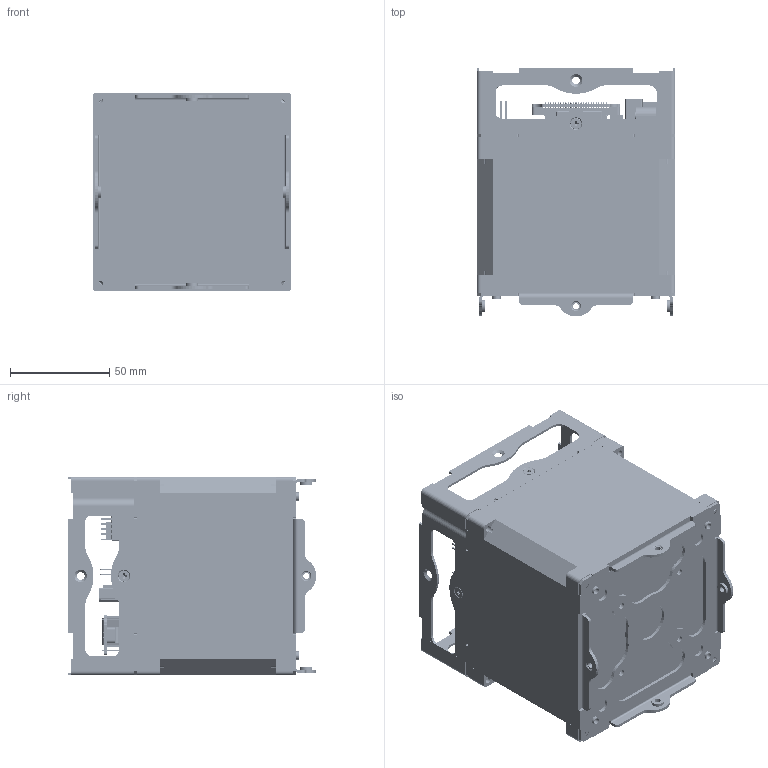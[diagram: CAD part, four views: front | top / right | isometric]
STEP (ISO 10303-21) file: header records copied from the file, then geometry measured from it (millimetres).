
FILE_DESCRIPTION (( 'STEP AP214' ), '1' );
FILE_NAME ('711-00700 MAI-200 ADACS Kit.STEP', '2017-01-20T21:03:58', ( '' ), ( '' ), 'SwSTEP 2.0', 'SolidWorks 2014', '' );
FILE_SCHEMA (( 'AUTOMOTIVE_DESIGN' ));
Length unit declared in the file: inch
Products named in the file (2): 711-00700 MAI-200 ADACS Kit
Bounding box: 100.05 x 125.08 x 100.05 mm (x, y, z)
Volume: 154550.5 mm3; surface area: 172956.2 mm2
Topology: 5 solids, 13 shells, 6067 faces, 13795 edges, 8534 vertices
Faces by surface type: plane 3238, cylinder 2045, cone 708, torus 46, sphere 22, bspline 8
Entity records: 186840 total; most frequent: DIRECTION 30906, CARTESIAN_POINT 29002, ORIENTED_EDGE 27542, EDGE_CURVE 13771, AXIS2_PLACEMENT_3D 11116, VECTOR 8674, LINE 8674, VERTEX_POINT 8532
